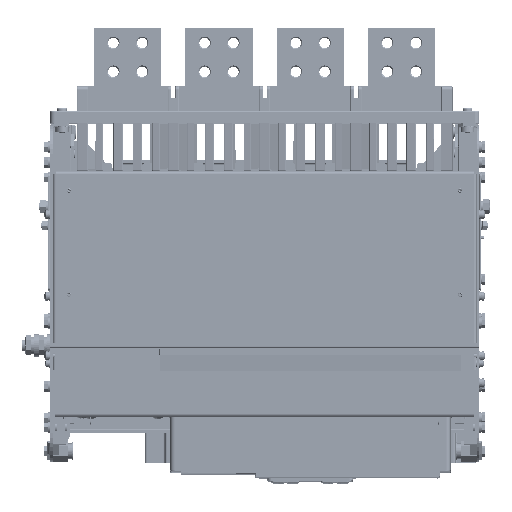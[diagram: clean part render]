
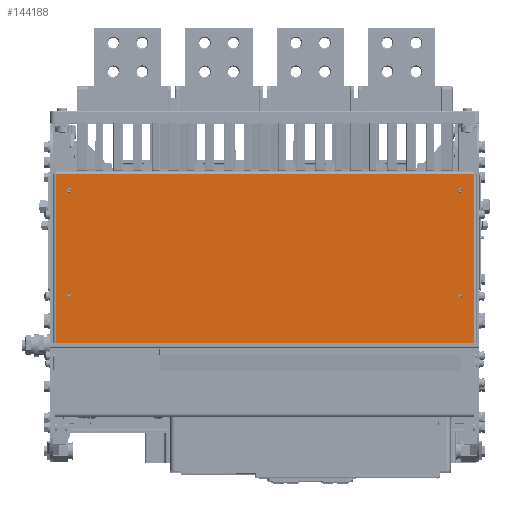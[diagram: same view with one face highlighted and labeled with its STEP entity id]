
A CAD part, top view. The second image highlights one B-rep face of the part: STEP entity #144188.
In plain terms, the highlighted planar face has unit normal (0, 0, 1).
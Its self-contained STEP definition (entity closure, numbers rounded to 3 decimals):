
#141981=CARTESIAN_POINT('',(-156.,-88.5,2.));
#141982=DIRECTION('',(0.,0.,1.));
#141983=DIRECTION('',(0.,-1.,0.));
#141984=AXIS2_PLACEMENT_3D('',#141981,#141982,#141983);
#141986=CARTESIAN_POINT('',(-156.,-88.5,2.));
#141987=DIRECTION('',(0.,0.,1.));
#141988=DIRECTION('',(0.,1.,0.));
#141989=AXIS2_PLACEMENT_3D('',#141986,#141987,#141988);
#141991=CARTESIAN_POINT('',(-156.,20.,2.));
#141992=DIRECTION('',(0.,0.,1.));
#141993=DIRECTION('',(1.,0.,0.));
#141994=AXIS2_PLACEMENT_3D('',#141991,#141992,#141993);
#141996=CARTESIAN_POINT('',(-156.,20.,2.));
#141997=DIRECTION('',(0.,0.,1.));
#141998=DIRECTION('',(-1.,0.,0.));
#141999=AXIS2_PLACEMENT_3D('',#141996,#141997,#141998);
#142001=CARTESIAN_POINT('',(251.,20.,2.));
#142002=DIRECTION('',(0.,0.,1.));
#142003=DIRECTION('',(1.,0.,0.));
#142004=AXIS2_PLACEMENT_3D('',#142001,#142002,#142003);
#142006=CARTESIAN_POINT('',(251.,20.,2.));
#142007=DIRECTION('',(0.,0.,1.));
#142008=DIRECTION('',(-1.,0.,0.));
#142009=AXIS2_PLACEMENT_3D('',#142006,#142007,#142008);
#142011=CARTESIAN_POINT('',(251.,-88.5,2.));
#142012=DIRECTION('',(0.,0.,1.));
#142013=DIRECTION('',(1.,0.,0.));
#142014=AXIS2_PLACEMENT_3D('',#142011,#142012,#142013);
#142016=CARTESIAN_POINT('',(251.,-88.5,2.));
#142017=DIRECTION('',(0.,0.,1.));
#142018=DIRECTION('',(-1.,0.,0.));
#142019=AXIS2_PLACEMENT_3D('',#142016,#142017,#142018);
#142025=DIRECTION('',(-1.,0.,0.));
#142026=VECTOR('',#142025,435.);
#142027=CARTESIAN_POINT('',(265.,37.,2.));
#142028=LINE('',#142027,#142026);
#142562=DIRECTION('',(1.,0.,0.));
#142563=VECTOR('',#142562,435.);
#142564=CARTESIAN_POINT('',(-170.,-139.,2.));
#142565=LINE('',#142564,#142563);
#142597=DIRECTION('',(0.,-1.,0.));
#142598=VECTOR('',#142597,176.);
#142599=CARTESIAN_POINT('',(-170.,37.,2.));
#142600=LINE('',#142599,#142598);
#142965=DIRECTION('',(0.,1.,0.));
#142966=VECTOR('',#142965,176.);
#142967=CARTESIAN_POINT('',(265.,-139.,2.));
#142968=LINE('',#142967,#142966);
#143645=CARTESIAN_POINT('',(265.,37.,2.));
#143646=CARTESIAN_POINT('',(-170.,37.,2.));
#143647=VERTEX_POINT('',#143645);
#143648=VERTEX_POINT('',#143646);
#143649=CARTESIAN_POINT('',(265.,-139.,2.));
#143650=VERTEX_POINT('',#143649);
#143651=CARTESIAN_POINT('',(-170.,-139.,2.));
#143652=VERTEX_POINT('',#143651);
#143653=CARTESIAN_POINT('',(-156.,-90.05,2.));
#143654=CARTESIAN_POINT('',(-156.,-86.95,2.));
#143655=VERTEX_POINT('',#143653);
#143656=VERTEX_POINT('',#143654);
#143657=CARTESIAN_POINT('',(-154.45,20.,2.));
#143658=CARTESIAN_POINT('',(-157.55,20.,2.));
#143659=VERTEX_POINT('',#143657);
#143660=VERTEX_POINT('',#143658);
#143661=CARTESIAN_POINT('',(252.55,20.,2.));
#143662=CARTESIAN_POINT('',(249.45,20.,2.));
#143663=VERTEX_POINT('',#143661);
#143664=VERTEX_POINT('',#143662);
#143665=CARTESIAN_POINT('',(252.55,-88.5,2.));
#143666=CARTESIAN_POINT('',(249.45,-88.5,2.));
#143667=VERTEX_POINT('',#143665);
#143668=VERTEX_POINT('',#143666);
#144149=CARTESIAN_POINT('',(0.,0.,2.));
#144150=DIRECTION('',(0.,0.,1.));
#144151=DIRECTION('',(1.,0.,0.));
#144152=AXIS2_PLACEMENT_3D('',#144149,#144150,#144151);
#144153=PLANE('',#144152);
#144155=ORIENTED_EDGE('',*,*,#144154,.F.);
#144157=ORIENTED_EDGE('',*,*,#144156,.F.);
#144159=ORIENTED_EDGE('',*,*,#144158,.F.);
#144161=ORIENTED_EDGE('',*,*,#144160,.F.);
#144162=EDGE_LOOP('',(#144155,#144157,#144159,#144161));
#144163=FACE_OUTER_BOUND('',#144162,.F.);
#144165=ORIENTED_EDGE('',*,*,#144164,.T.);
#144167=ORIENTED_EDGE('',*,*,#144166,.T.);
#144168=EDGE_LOOP('',(#144165,#144167));
#144169=FACE_BOUND('',#144168,.F.);
#144171=ORIENTED_EDGE('',*,*,#144170,.T.);
#144173=ORIENTED_EDGE('',*,*,#144172,.T.);
#144174=EDGE_LOOP('',(#144171,#144173));
#144175=FACE_BOUND('',#144174,.F.);
#144177=ORIENTED_EDGE('',*,*,#144176,.T.);
#144179=ORIENTED_EDGE('',*,*,#144178,.T.);
#144180=EDGE_LOOP('',(#144177,#144179));
#144181=FACE_BOUND('',#144180,.F.);
#144183=ORIENTED_EDGE('',*,*,#144182,.T.);
#144185=ORIENTED_EDGE('',*,*,#144184,.T.);
#144186=EDGE_LOOP('',(#144183,#144185));
#144187=FACE_BOUND('',#144186,.F.);
#144188=ADVANCED_FACE('',(#144163,#144169,#144175,#144181,#144187),#144153,.T.);
#141985=CIRCLE('',#141984,1.55);
#141990=CIRCLE('',#141989,1.55);
#141995=CIRCLE('',#141994,1.55);
#142000=CIRCLE('',#141999,1.55);
#142005=CIRCLE('',#142004,1.55);
#142010=CIRCLE('',#142009,1.55);
#142015=CIRCLE('',#142014,1.55);
#142020=CIRCLE('',#142019,1.55);
#144154=EDGE_CURVE('',#143647,#143648,#142028,.T.);
#144156=EDGE_CURVE('',#143650,#143647,#142968,.T.);
#144158=EDGE_CURVE('',#143652,#143650,#142565,.T.);
#144160=EDGE_CURVE('',#143648,#143652,#142600,.T.);
#144164=EDGE_CURVE('',#143655,#143656,#141985,.T.);
#144166=EDGE_CURVE('',#143656,#143655,#141990,.T.);
#144170=EDGE_CURVE('',#143659,#143660,#141995,.T.);
#144172=EDGE_CURVE('',#143660,#143659,#142000,.T.);
#144176=EDGE_CURVE('',#143663,#143664,#142005,.T.);
#144178=EDGE_CURVE('',#143664,#143663,#142010,.T.);
#144182=EDGE_CURVE('',#143667,#143668,#142015,.T.);
#144184=EDGE_CURVE('',#143668,#143667,#142020,.T.);
